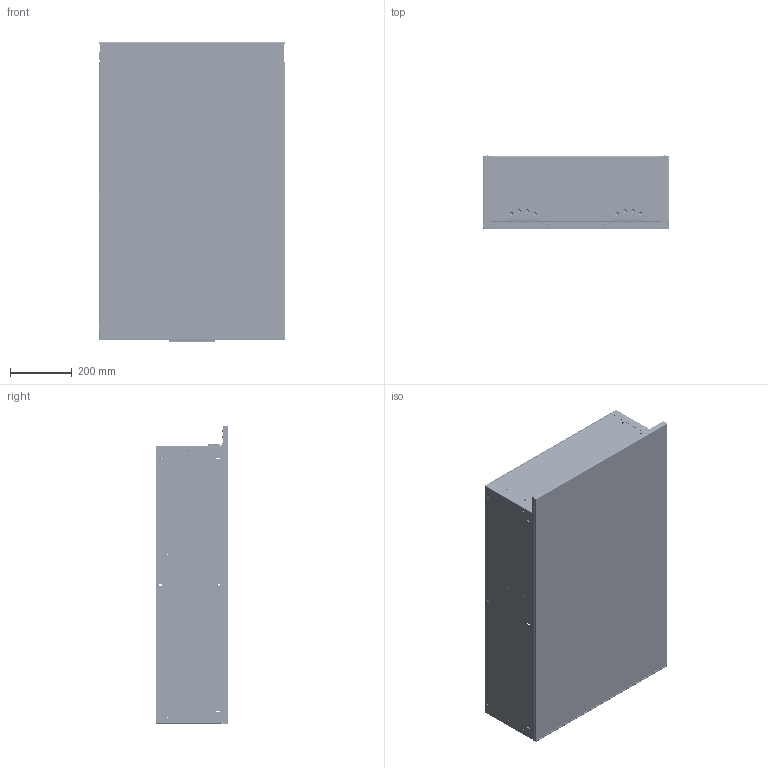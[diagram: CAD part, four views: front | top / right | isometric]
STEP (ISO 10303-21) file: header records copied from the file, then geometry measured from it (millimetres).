
FILE_DESCRIPTION (( 'STEP AP214' ), '1' );
FILE_NAME ('TSL.MR30.STEP', '2025-01-27T16:11:58', ( '' ), ( '' ), 'SwSTEP 2.0', 'SolidWorks 2022', '' );
FILE_SCHEMA (( 'AUTOMOTIVE_DESIGN' ));
Length unit declared in the file: millimetre
Products named in the file (1): TSL.MR30
Bounding box: 601.49 x 234.95 x 968.55 mm (x, y, z)
Surface area: 4827197 mm2 (no closed solid volume)
Topology: 0 solids, 178 shells, 5284 faces, 13074 edges, 8233 vertices
Faces by surface type: plane 2227, cylinder 1847, cone 661, torus 393, sphere 118, bspline 38
Entity records: 228933 total; most frequent: CARTESIAN_POINT 40168, DIRECTION 28206, ORIENTED_EDGE 26092, EDGE_CURVE 13054, AXIS2_PLACEMENT_3D 11066, VERTEX_POINT 8233, EDGE_LOOP 6173, LINE 6074
